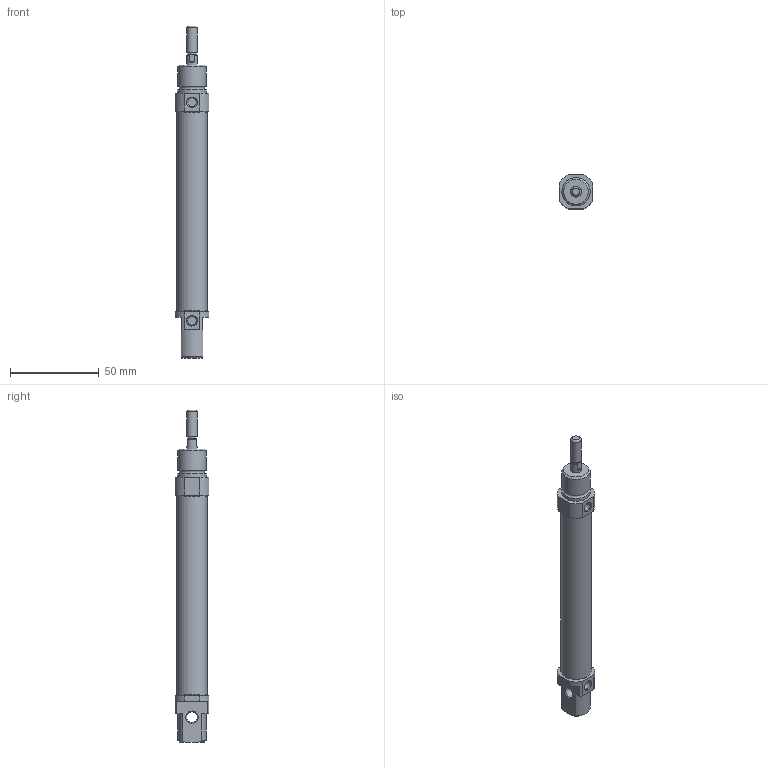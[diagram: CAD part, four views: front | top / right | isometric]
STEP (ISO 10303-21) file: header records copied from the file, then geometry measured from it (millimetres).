
FILE_DESCRIPTION((''),'2;1');
FILE_NAME('I:\3D電子目錄\氣缸\SDA\SDA16\SDA16\SDA16x75.stp','2007-08-06T10:29:06',('Administrator'),(''),'Autodesk Inventor 2008','Autodesk Inventor 2008','');
FILE_SCHEMA(('AUTOMOTIVE_DESIGN { 1 0 10303 214 1 1 1 1 }'));
Length unit declared in the file: millimetre
Products named in the file (1): SDA16X75
Bounding box: 19 x 19 x 187 mm (x, y, z)
Volume: 37790.2 mm3; surface area: 10663.1 mm2
Topology: 1 solids, 1 shells, 60 faces, 138 edges, 88 vertices
Faces by surface type: plane 26, cylinder 19, cone 12, bspline 2, torus 1
Full cylindrical faces by diameter (mm): 4.6 x1, 5 x2, 6 x3, 16 x2, 17.2 x1
Entity records: 1626 total; most frequent: CARTESIAN_POINT 289, DIRECTION 286, ORIENTED_EDGE 238, EDGE_CURVE 119, AXIS2_PLACEMENT_3D 116, EDGE_LOOP 88, VERTEX_POINT 87, FACE_OUTER_BOUND 60
